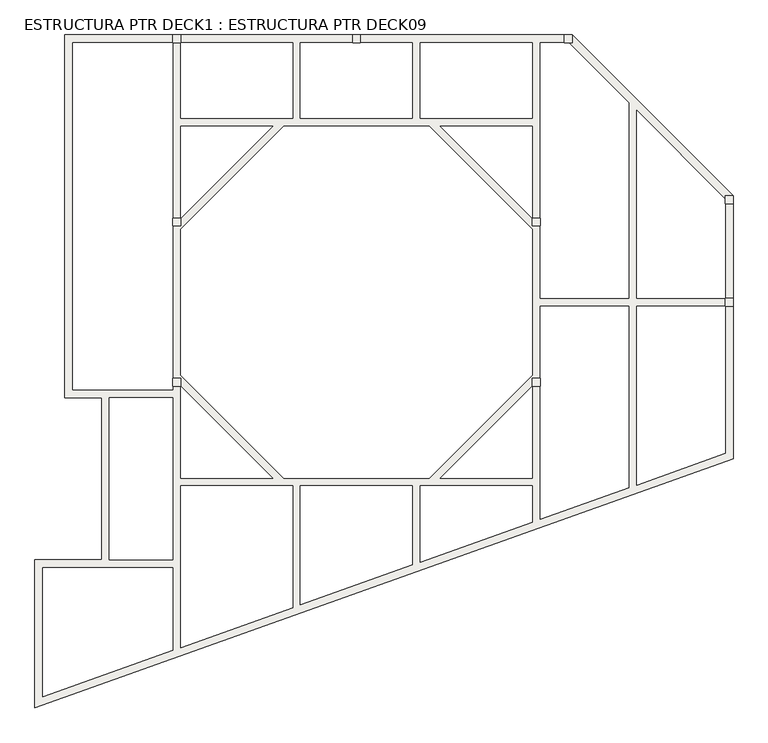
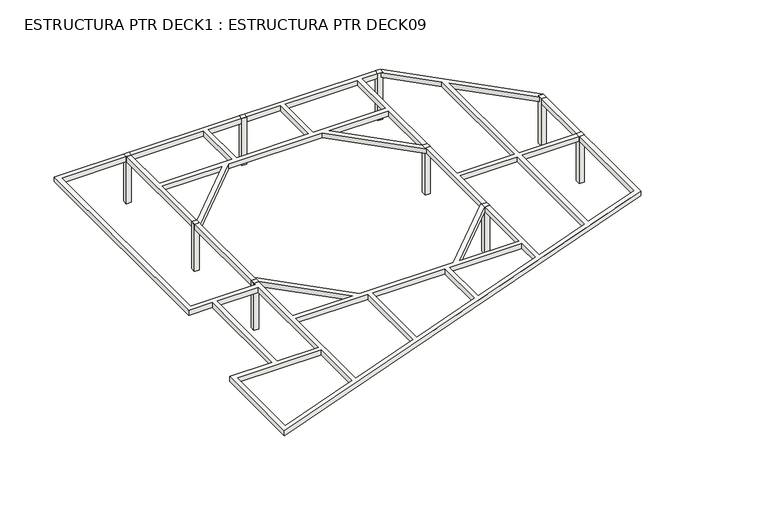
"""IFC4 building model written with IfcOpenShell, lengths in millimetres: slab geometry, ESTRUCTURA PTR DECK1 : ESTRUCTURA PTR DECK09."""

from ifc_helpers import new_model, si_unit, frame, origin, place, context, project, spatial, polyline, outline, extrude, source, transform, mapped, element, save


def estructura_ptr_deck1_estructura_ptr_deck09_1f454c2c(model_context):
    return source(origin(), model_context, "Body", "SweptSolid", [
        extrude(outline(polyline([(45398.9380833, 26573.3853146), (45437.0380833, 26573.3853146), (45437.0380833, 26535.2853146), (45398.9380833, 26535.2853146), (45398.9380833, 26573.3853146)])), frame((0.0, 0.0, 15000.0), z_axis=(0.0, 0.0, 1.0), x_axis=(1.0, 0.0, 0.0)), (0.0, 0.0, 1.0), 380.0),
        extrude(outline(polyline([(43638.6063585, 26573.3853146), (43676.7063585, 26573.3853146), (43676.7063585, 26535.2853146), (43638.6063585, 26535.2853146), (43638.6063585, 26573.3853146)])), frame((0.0, 0.0, 15000.0), z_axis=(0.0, 0.0, 1.0), x_axis=(1.0, 0.0, 0.0)), (0.0, 0.0, 1.0), 380.0),
        extrude(outline(polyline([(45398.9380833, 25750.0856637), (45398.9380833, 25788.1856637), (45437.0380833, 25788.1856637), (45437.0380833, 25750.0856637), (45398.9380833, 25750.0856637)])), frame((0.0, 0.0, 15000.0), z_axis=(0.0, 0.0, 1.0), x_axis=(1.0, 0.0, 0.0)), (0.0, 0.0, 1.0), 380.0),
        extrude(outline(polyline([(43638.6063585, 25750.0856637), (43638.6063585, 25788.1856637), (43676.7063585, 25788.1856637), (43676.7063585, 25750.0856637), (43638.6063585, 25750.0856637)])), frame((0.0, 0.0, 15000.0), z_axis=(0.0, 0.0, 1.0), x_axis=(1.0, 0.0, 0.0)), (0.0, 0.0, 1.0), 380.0),
        extrude(outline(polyline([(46344.8480728, 26682.4383805), (46382.9480728, 26682.4383805), (46382.9480728, 26644.3383805), (46344.8480728, 26644.3383805), (46344.8480728, 26682.4383805)])), frame((0.0, 0.0, 15000.0), z_axis=(0.0, 0.0, 1.0), x_axis=(1.0, 0.0, 0.0)), (0.0, 0.0, 1.0), 380.0),
        extrude(outline(polyline([(45555.9226716, 27471.3637817), (45594.0226716, 27471.3637817), (45594.0226716, 27433.2637817), (45555.9226716, 27433.2637817), (45555.9226716, 27471.3637817)])), frame((0.0, 0.0, 15000.0), z_axis=(0.0, 0.0, 1.0), x_axis=(1.0, 0.0, 0.0)), (0.0, 0.0, 1.0), 380.0),
        extrude(outline(polyline([(43638.6063585, 27471.3637817), (43676.7063585, 27471.3637817), (43676.7063585, 27433.2637817), (43638.6063585, 27433.2637817), (43638.6063585, 27471.3637817)])), frame((0.0, 0.0, 15000.0), z_axis=(0.0, 0.0, 1.0), x_axis=(1.0, 0.0, 0.0)), (0.0, 0.0, 1.0), 380.0),
        extrude(outline(polyline([(44518.7722209, 27471.3637817), (44556.8722209, 27471.3637817), (44556.8722209, 27433.2637817), (44518.7722209, 27433.2637817), (44518.7722209, 27471.3637817)])), frame((0.0, 0.0, 15000.0), z_axis=(0.0, 0.0, 1.0), x_axis=(1.0, 0.0, 0.0)), (0.0, 0.0, 1.0), 380.0),
        extrude(outline(polyline([(46344.8480728, 26142.6854892), (46344.8480728, 26180.7854892), (46382.9480728, 26180.7854892), (46382.9480728, 26142.6854892), (46344.8480728, 26142.6854892)])), frame((0.0, 0.0, 15000.0), z_axis=(0.0, 0.0, 1.0), x_axis=(1.0, 0.0, 0.0)), (0.0, 0.0, 1.0), 380.0),
        extrude(outline(polyline([(46382.9480728, 25394.1077962), (42962.6275078, 24175.2643855), (42962.6275078, 24900.0), (43289.5059119, 24900.0), (43289.5059119, 25694.0112971), (43109.5059119, 25694.0112971), (43109.5059119, 27471.3637817), (45594.0226716, 27471.3637817), (46382.9480728, 26682.4383805), (46382.9480728, 25394.1077962)]), holes=[polyline([(44850.2608417, 27433.2637817), (44850.2608417, 27062.271623), (45398.9380833, 27062.271623), (45398.9380833, 27433.2637817), (44850.2608417, 27433.2637817)]), polyline([(46344.8480728, 26180.7854892), (46344.8480728, 26666.6568438), (45909.9930781, 27101.5118386), (45909.9930781, 26180.7854892), (46344.8480728, 26180.7854892)]), polyline([(43638.6063585, 25732.1112971), (43638.6063585, 27433.2637817), (43147.6059119, 27433.2637817), (43147.6059119, 25732.1112971), (43638.6063585, 25732.1112971)]), polyline([(43676.7063585, 27062.271623), (44225.3836001, 27062.271623), (44225.3836001, 27433.2637817), (43676.7063585, 27433.2637817), (43676.7063585, 27062.271623)]), polyline([(44225.3836001, 25261.7368953), (43676.7063585, 25261.7368953), (43676.7063585, 24470.1757661), (44225.3836001, 24665.6988546), (44225.3836001, 25261.7368953)]), polyline([(44126.9551269, 25299.8368953), (43676.7063585, 25750.0856637), (43676.7063585, 25299.8368953), (44126.9551269, 25299.8368953)]), polyline([(44812.1608417, 25261.7368953), (44263.4836001, 25261.7368953), (44263.4836001, 24679.2759252), (44812.1608417, 24874.7990137), (44812.1608417, 25261.7368953)]), polyline([(45398.9380833, 25083.8991729), (45398.9380833, 25261.7368953), (44850.2608417, 25261.7368953), (44850.2608417, 24888.3760844), (45398.9380833, 25083.8991729)]), polyline([(43676.7063585, 26573.3853146), (44127.4926669, 27024.171623), (43676.7063585, 27024.171623), (43676.7063585, 26573.3853146)]), polyline([(44948.1517749, 27024.171623), (45398.9380833, 26573.3853146), (45398.9380833, 27024.171623), (44948.1517749, 27024.171623)]), polyline([(44894.2702382, 27024.171623), (44181.3742036, 27024.171623), (43676.7063585, 26519.5037779), (43676.7063585, 25803.9672004), (44180.8366636, 25299.8368953), (44894.8077781, 25299.8368953), (45398.9380833, 25803.9672004), (45398.9380833, 26519.5037779), (44894.2702382, 27024.171623)]), polyline([(44948.6893149, 25299.8368953), (45398.9380833, 25299.8368953), (45398.9380833, 25750.0856637), (44948.6893149, 25299.8368953)]), polyline([(44812.1608417, 27433.2637817), (44263.4836001, 27433.2637817), (44263.4836001, 27062.271623), (44812.1608417, 27062.271623), (44812.1608417, 27433.2637817)]), polyline([(45437.0380833, 26180.7854892), (45871.8930781, 26180.7854892), (45871.8930781, 27139.6118386), (45578.2411349, 27433.2637817), (45437.0380833, 27433.2637817), (45437.0380833, 26180.7854892)]), polyline([(43638.6063585, 24456.5986954), (43638.6063585, 24861.9), (43000.7275078, 24861.9), (43000.7275078, 24229.288296), (43638.6063585, 24456.5986954)]), polyline([(43327.6059119, 24900.0), (43638.6063585, 24900.0), (43638.6063585, 25694.0112971), (43327.6059119, 25694.0112971), (43327.6059119, 24900.0)]), polyline([(45909.9930781, 26142.6854892), (45909.9930781, 25266.0154398), (46344.8480728, 25420.9775654), (46344.8480728, 26142.6854892), (45909.9930781, 26142.6854892)]), polyline([(45437.0380833, 26142.6854892), (45437.0380833, 25097.4762435), (45871.8930781, 25252.4383691), (45871.8930781, 26142.6854892), (45437.0380833, 26142.6854892)])]), frame((0.0, 0.0, 15341.9), z_axis=(0.0, 0.0, 1.0), x_axis=(1.0, 0.0, 0.0)), (0.0, 0.0, 1.0), 38.1),
    ])


if __name__ == "__main__":
    model = new_model("IFC4")
    model_context = context("Model", 3, world=origin())
    ifc_project = project(units=[si_unit("LENGTHUNIT", "METRE", prefix="MILLI")], contexts=[model_context])
    site = spatial("IfcSite", under=ifc_project)
    building = spatial("IfcBuilding", under=site)
    placement = place(None, origin())
    estructura_ptr_deck1_estructura_ptr_deck09_shape = estructura_ptr_deck1_estructura_ptr_deck09_1f454c2c(model_context)
    element("IfcSlab", 1, ObjectType="ESTRUCTURA PTR DECK1 : ESTRUCTURA PTR DECK09", at=placement, inside=building, context=model_context, shape_type="MappedRepresentation", body=[
        mapped(estructura_ptr_deck1_estructura_ptr_deck09_shape, transform((0.0, 0.0, 0.0), x_axis=(1.0, 0.0, 0.0), y_axis=(0.0, 1.0, 0.0), z_axis=(0.0, 0.0, 1.0))),
    ])
    save(model, "model.ifc")
